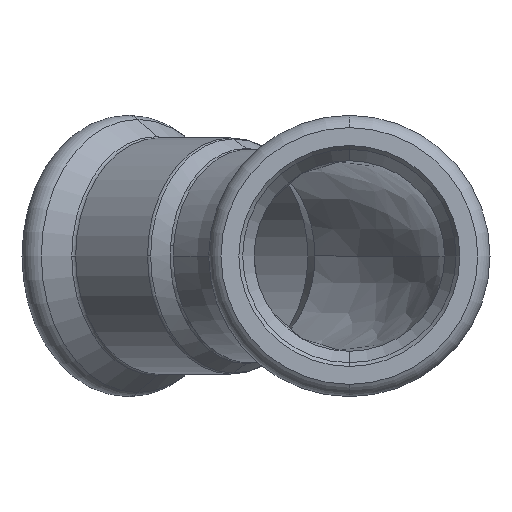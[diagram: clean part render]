
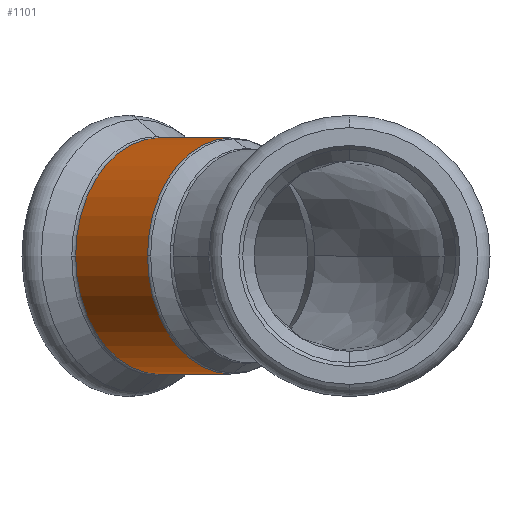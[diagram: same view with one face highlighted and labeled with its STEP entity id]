
A CAD part, left-side view. The second image highlights one B-rep face of the part: STEP entity #1101.
In plain terms, the highlighted cylindrical face has radius 15.6 mm (diameter 31.2 mm), a partial arc.
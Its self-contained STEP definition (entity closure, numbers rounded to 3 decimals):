
#4 = ORIENTED_EDGE ( 'NONE', *, *, #1734, .F. ) ;
#80 = VERTEX_POINT ( 'NONE', #3193 ) ;
#160 = LINE ( 'NONE', #814, #2732 ) ;
#227 = ORIENTED_EDGE ( 'NONE', *, *, #3667, .T. ) ;
#506 = DIRECTION ( 'NONE',  ( -0.707, -0.707, 0. ) ) ;
#525 = DIRECTION ( 'NONE',  ( -0.707, -0.707, 0. ) ) ;
#635 = VECTOR ( 'NONE', #525, 1000. ) ;
#814 = CARTESIAN_POINT ( 'NONE',  ( 32.527, -32.527, -15.6 ) ) ;
#840 = CARTESIAN_POINT ( 'NONE',  ( 44.197, -20.857, 0. ) ) ;
#996 = CIRCLE ( 'NONE', #1465, 15.6 ) ;
#1101 = ADVANCED_FACE ( 'NONE', ( #3981 ), #3326, .T. ) ;
#1134 = CARTESIAN_POINT ( 'NONE',  ( 34.698, -30.356, 0. ) ) ;
#1175 = EDGE_CURVE ( 'NONE', #2607, #1848, #3647, .T. ) ;
#1233 = CIRCLE ( 'NONE', #1295, 15.6 ) ;
#1248 = DIRECTION ( 'NONE',  ( 0.707, 0.707, 0. ) ) ;
#1295 = AXIS2_PLACEMENT_3D ( 'NONE', #840, #506, #3029 ) ;
#1439 = VERTEX_POINT ( 'NONE', #4057 ) ;
#1465 = AXIS2_PLACEMENT_3D ( 'NONE', #1559, #1248, #3373 ) ;
#1538 = VERTEX_POINT ( 'NONE', #1692 ) ;
#1559 = CARTESIAN_POINT ( 'NONE',  ( 34.698, -30.356, 0. ) ) ;
#1692 = CARTESIAN_POINT ( 'NONE',  ( 44.197, -20.857, 15.6 ) ) ;
#1734 = EDGE_CURVE ( 'NONE', #1538, #1949, #3657, .T. ) ;
#1736 = EDGE_CURVE ( 'NONE', #1538, #2607, #1233, .T. ) ;
#1813 = CARTESIAN_POINT ( 'NONE',  ( 44.197, -20.857, 0. ) ) ;
#1848 = VERTEX_POINT ( 'NONE', #3415 ) ;
#1949 = VERTEX_POINT ( 'NONE', #3578 ) ;
#2019 = CARTESIAN_POINT ( 'NONE',  ( 32.527, -32.527, 0. ) ) ;
#2078 = DIRECTION ( 'NONE',  ( -0.707, -0.707, 0. ) ) ;
#2111 = EDGE_LOOP ( 'NONE', ( #4, #2956, #2829, #2674, #227, #4100 ) ) ;
#2607 = VERTEX_POINT ( 'NONE', #3131 ) ;
#2633 = DIRECTION ( 'NONE',  ( 0., 0., -1. ) ) ;
#2674 = ORIENTED_EDGE ( 'NONE', *, *, #3115, .T. ) ;
#2724 = DIRECTION ( 'NONE',  ( 0.707, 0.707, 0. ) ) ;
#2732 = VECTOR ( 'NONE', #2078, 1000. ) ;
#2750 = DIRECTION ( 'NONE',  ( -0.707, -0.707, 0. ) ) ;
#2795 = DIRECTION ( 'NONE',  ( -0.707, 0.707, 0. ) ) ;
#2829 = ORIENTED_EDGE ( 'NONE', *, *, #1175, .T. ) ;
#2869 = AXIS2_PLACEMENT_3D ( 'NONE', #1813, #2750, #2795 ) ;
#2956 = ORIENTED_EDGE ( 'NONE', *, *, #1736, .T. ) ;
#3029 = DIRECTION ( 'NONE',  ( -0.707, 0.707, 0. ) ) ;
#3035 = AXIS2_PLACEMENT_3D ( 'NONE', #1134, #2724, #3665 ) ;
#3115 = EDGE_CURVE ( 'NONE', #1848, #80, #160, .T. ) ;
#3131 = CARTESIAN_POINT ( 'NONE',  ( 33.166, -9.826, 0. ) ) ;
#3193 = CARTESIAN_POINT ( 'NONE',  ( 34.698, -30.356, -15.6 ) ) ;
#3288 = DIRECTION ( 'NONE',  ( -0.707, -0.707, 0. ) ) ;
#3326 = CYLINDRICAL_SURFACE ( 'NONE', #3524, 15.6 ) ;
#3373 = DIRECTION ( 'NONE',  ( 0.707, -0.707, 0. ) ) ;
#3415 = CARTESIAN_POINT ( 'NONE',  ( 44.197, -20.857, -15.6 ) ) ;
#3524 = AXIS2_PLACEMENT_3D ( 'NONE', #2019, #3288, #2633 ) ;
#3561 = CIRCLE ( 'NONE', #3035, 15.6 ) ;
#3578 = CARTESIAN_POINT ( 'NONE',  ( 34.698, -30.356, 15.6 ) ) ;
#3647 = CIRCLE ( 'NONE', #2869, 15.6 ) ;
#3657 = LINE ( 'NONE', #3968, #635 ) ;
#3665 = DIRECTION ( 'NONE',  ( 0.707, -0.707, 0. ) ) ;
#3667 = EDGE_CURVE ( 'NONE', #80, #1439, #996, .T. ) ;
#3968 = CARTESIAN_POINT ( 'NONE',  ( 32.527, -32.527, 15.6 ) ) ;
#3981 = FACE_OUTER_BOUND ( 'NONE', #2111, .T. ) ;
#4057 = CARTESIAN_POINT ( 'NONE',  ( 23.667, -19.325, 0. ) ) ;
#4087 = EDGE_CURVE ( 'NONE', #1439, #1949, #3561, .T. ) ;
#4100 = ORIENTED_EDGE ( 'NONE', *, *, #4087, .T. ) ;
